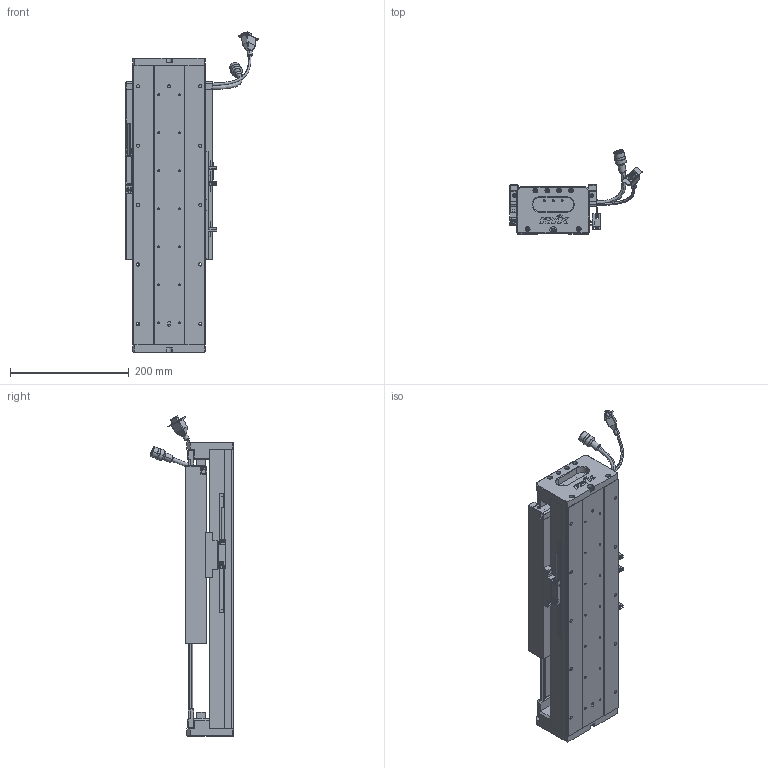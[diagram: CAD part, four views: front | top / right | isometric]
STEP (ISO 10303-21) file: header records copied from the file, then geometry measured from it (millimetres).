
FILE_DESCRIPTION (( 'STEP AP203' ), '1' );
FILE_NAME ('Z4-RY120D-1-L500-B-K.SLDASM_0100.step', '2021-05-17T06:05:37', ( '盈信电脑' ), ( '东莞市道滘镇水果街19号' ), 'SwSTEP 2.0', 'SolidWorks 2016', '' );
FILE_SCHEMA (( 'CONFIG_CONTROL_DESIGN' ));
Length unit declared in the file: millimetre
Products named in the file (37): SCREW-M1.6; Z-120詩湍傷裔啣; HARNESS-Part-1; 140蚥薯蝶輸; PBU_SHEET; SCALE-Part-1; Z-RY120D詩湍奻揤裔; COVER-Part-1; HOLDER0; Z4-RY120铝滑块（21款）; HARNESS-Part-2; 榋妏寠巭燃_暯_M2_2; 覜茼ん672; Z4-RY120-500-倰第菁釱_0100; SCALE-Part-2; Z4-RY120D-1-L500-B-K.SLDASM_0100; RY100FB-遵嫖萇覜茼え; SCREW-M1.6-1; SCREW-M1.6-3; SCALE; 140雄赽晤鎢ん堤盄; COVER; Z4-RY120-L500詩湍100mm遵_0100; HARNESS; SEAL; LABEL; Z-RY120D詩湍狟揤裔; 080黍杅芛假蚾釱21遴; SCREW-M1.6-2; PSLH080_PSLF2; SCREW-M1.7; SEAL-Part-1; SCREW-M1.7-1; 120-Z-臏賑輸盄裔(21遴); LABEL-Part-1; SHIELDPLATE; 672嫖萇羲壽假蚾釱
Assembly tree (43 placements, depth 4):
  Z4-RY120D-1-L500-B-K.SLDASM_0100
    Z4-RY120-500-倰第菁釱_0100
    覜茼ん672  x3
    672嫖萇羲壽假蚾釱  x2
    Z4-RY120铝滑块（21款）
    PSLH080_PSLF2
      SCALE
        SCALE-Part-1
        SCALE-Part-2
      HARNESS
        HARNESS-Part-1
        HARNESS-Part-2
      LABEL
        LABEL-Part-1
      COVER
        COVER-Part-1
      SEAL
        SEAL-Part-1
      榋妏寠巭燃_暯_M2_2
      SHIELDPLATE
      SCREW-M1.7
      SCREW-M1.7-1
      PBU_SHEET
      SCREW-M1.6
      SCREW-M1.6-1
      SCREW-M1.6-2
      SCREW-M1.6-3
      HOLDER0
    080黍杅芛假蚾釱21遴
    120-Z-臏賑輸盄裔(21遴)
    140雄赽晤鎢ん堤盄
    140蚥薯蝶輸  x2
    RY100FB-遵嫖萇覜茼え
    Z-120詩湍傷裔啣  x2
    Z-RY120D詩湍奻揤裔  x2
    Z-RY120D詩湍狟揤裔  x2
    Z4-RY120-L500詩湍100mm遵_0100
Bounding box: 222.88 x 140.94 x 539 mm (x, y, z)
Volume: 2156638.8 mm3; surface area: 649137 mm2
Topology: 38 solids, 38 shells, 2523 faces, 6632 edges, 4194 vertices
Faces by surface type: plane 1081, cylinder 1080, cone 240, torus 69, bspline 53
Entity records: 71591 total; most frequent: CARTESIAN_POINT 17538, DIRECTION 10524, ORIENTED_EDGE 10312, EDGE_CURVE 5156, AXIS2_PLACEMENT_3D 3832, VERTEX_POINT 3314, LINE 2860, VECTOR 2860
